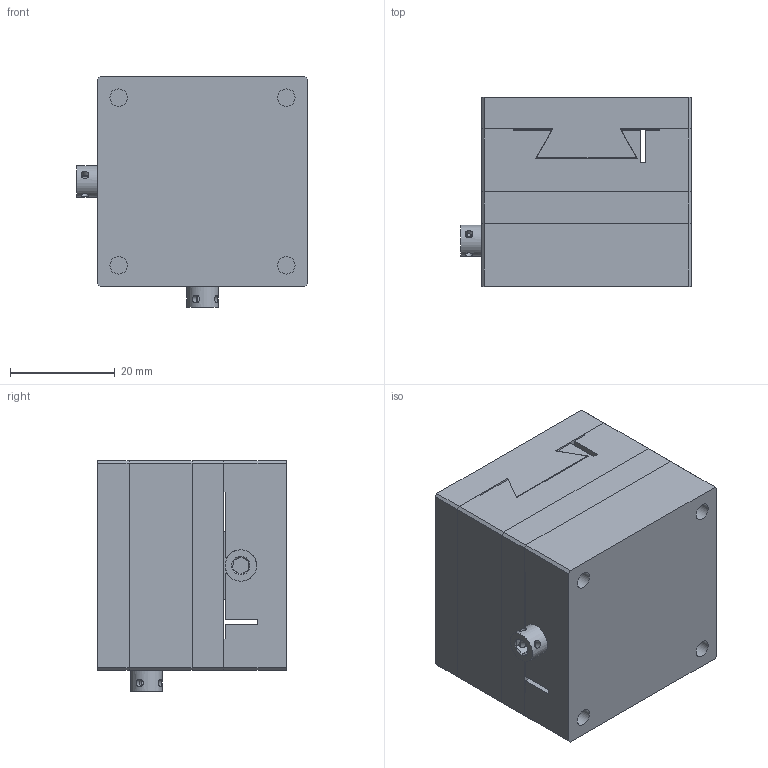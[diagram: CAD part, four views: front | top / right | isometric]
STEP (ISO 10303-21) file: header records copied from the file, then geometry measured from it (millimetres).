
FILE_DESCRIPTION (( 'STEP AP203' ), '1' );
FILE_NAME ('BKB40.STEP', '2024-07-31T08:06:39', ( 'Windows User' ), ( 'P R C' ), 'SwSTEP 2.0', 'SolidWorks 2024', '' );
FILE_SCHEMA (( 'CONFIG_CONTROL_DESIGN' ));
Length unit declared in the file: millimetre
Products named in the file (1): BKB40
Bounding box: 44 x 36 x 44 mm (x, y, z)
Volume: 50766.6 mm3; surface area: 26018.1 mm2
Topology: 6 solids, 6 shells, 256 faces, 696 edges, 458 vertices
Faces by surface type: plane 154, cylinder 80, cone 22
Full cylindrical faces by diameter (mm): 1.5 x8, 2.5 x22, 3 x4, 3.3 x10, 3.5 x2, 4 x2, 4.5 x2, 6 x10
Entity records: 7801 total; most frequent: CARTESIAN_POINT 1681, DIRECTION 1220, ORIENTED_EDGE 1148, EDGE_CURVE 574, VERTEX_POINT 420, AXIS2_PLACEMENT_3D 419, EDGE_LOOP 394, VECTOR 382
